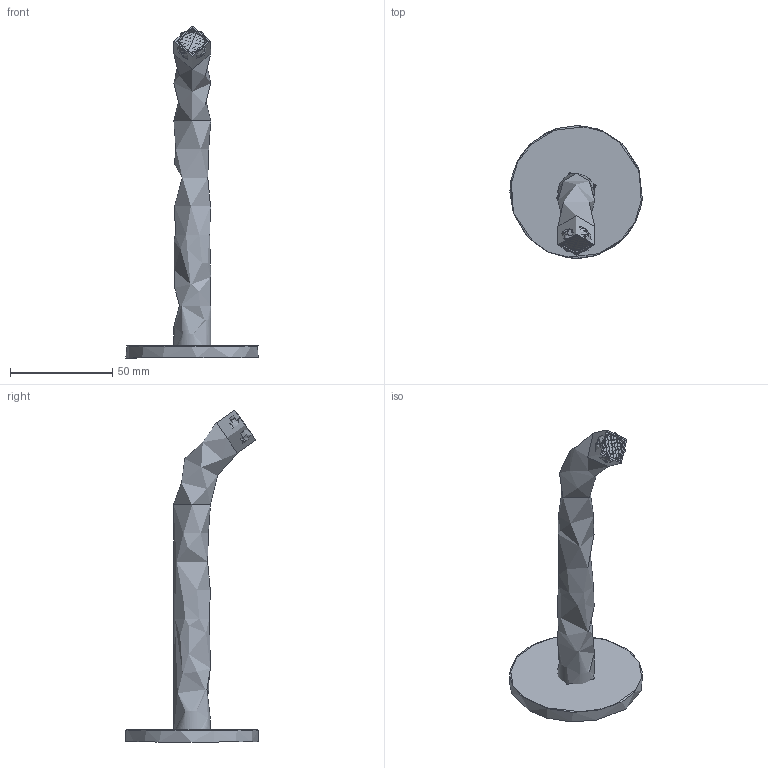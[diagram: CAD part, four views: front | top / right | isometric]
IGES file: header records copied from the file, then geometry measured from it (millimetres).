
Global section: file name: PR52CA203; native system: Autodesk Inventor 2017; preprocessor: unknown; author: PIZZERA; date: 20210408.145547; units: millimetre
Bounding box: 64.71 x 64.99 x 162.38 mm (x, y, z)
Volume: 60228.9 mm3; surface area: 17668.1 mm2
Topology: 1 solids, 1 shells, 647 faces, 1615 edges, 967 vertices
Faces by surface type: bspline 647
